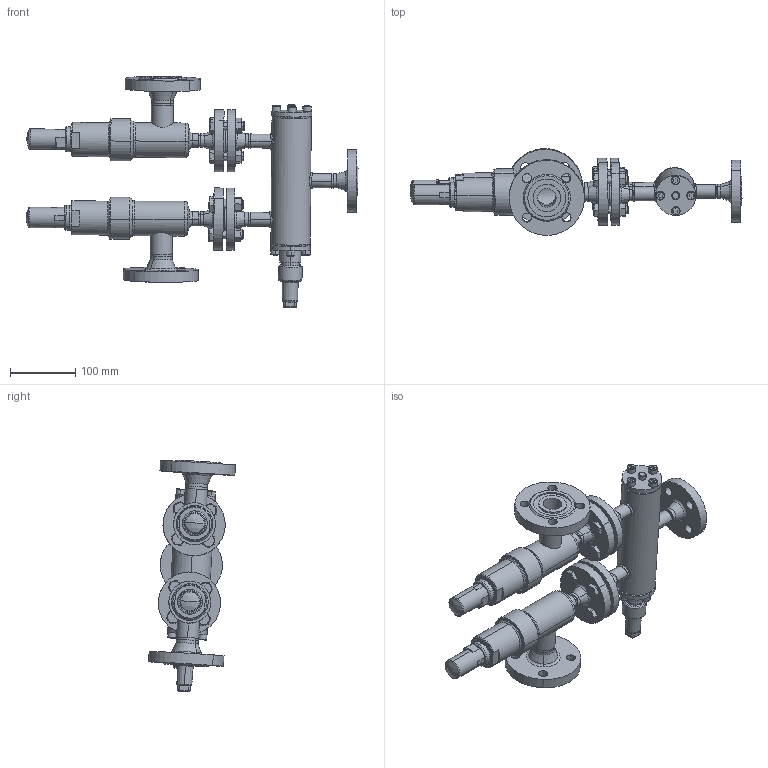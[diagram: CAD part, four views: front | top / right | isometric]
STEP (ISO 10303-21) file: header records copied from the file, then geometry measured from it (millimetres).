
FILE_DESCRIPTION (( 'STEP AP214' ), '1' );
FILE_NAME ('WVR-SVAB_1A8FL_DN15_DIN-FL.STEP', '2010-09-08T13:27:44', ( 'Eckhard Grams' ), ( 'AWP Kälte Klima Armaturen GmbH' ), 'SwSTEP 2.0', 'SolidWorks 2002296', '' );
FILE_SCHEMA (( 'AUTOMOTIVE_DESIGN' ));
Length unit declared in the file: millimetre
Products named in the file (31): Gehkpl 45720E10-5030001; Flansch-DIN2635-Nut_PS40_DIN-Flansch-DN015_PS40-Nut; Geh 45700E10-5034004_DN15; Rohrstutzen-A 45700E10-5036004_DN15(25)_Standard; Flansch-DIN2635-Nut_PS40_DIN-Flansch-DN025_PS40-Nut; bead Geh,kpl 45720E10-2_Standard; bead Geh,kpl 45720E10-1_Standard; Flachdichtg-Alu-DN15; Haube 45700E10-5260003_DN15; Kappe SVA-SVU-ORV_DN10-40 (M27x1,5)_Standard; Sechskantschraube-DIN933_M12x 45; Sechskantmutter-DIN934_M12; WVR-SVAB_1A8FL_DN15_DIN-FL; WVR24020D10-DN015_DIN-FL-N-F_PS40_Standard; WVB-R23000K10_Deck+Schr-DN10-20_Standard; Deckel24000E10-DN10-20_Standard; Zylinderschraube-DIN912_M 8x  25; Geh,kpl24020E10-DN15_DIN-FL-N-F_PS40_Standard; Geh,kpl24000E10_DN15_R1_PS40_Standard; Gehäuse24000E10-DN15_R1_PS40_Standard; Rohrstutzen-24000E10-DN15_R1_Standard; Schw-24000E10-DN15_Standard; Flansch-DIN2635-Feder_PS40_DIN-Flansch-DN015_PS40-Feder; bead24020-10-1_Standard; bead24020-10-3_Standard; bead24020-10-2_Standard; Kappe 96300E10_DN6-20 (M27x2)_Standard; AVR26300K10_Deck+Schr-DN10-20_Standard; Deckel26300K10-DN10-20_Standard; Zylinderschraube-DIN912_M 8x  16; SVAB 45520D10-DN15(25)_DIN
Assembly tree (57 placements, depth 5):
  WVR-SVAB_1A8FL_DN15_DIN-FL
    SVAB 45520D10-DN15(25)_DIN  x2
      Haube 45700E10-5260003_DN15
      Flachdichtg-Alu-DN15
      Kappe SVA-SVU-ORV_DN10-40 (M27x1,5)_Standard
      Gehkpl 45720E10-5030001
        Flansch-DIN2635-Nut_PS40_DIN-Flansch-DN025_PS40-Nut
        bead Geh,kpl 45720E10-2_Standard
        Geh 45700E10-5034004_DN15
        Rohrstutzen-A 45700E10-5036004_DN15(25)_Standard
        bead Geh,kpl 45720E10-1_Standard
        Flansch-DIN2635-Nut_PS40_DIN-Flansch-DN015_PS40-Nut
    Sechskantmutter-DIN934_M12  x8
    Sechskantschraube-DIN933_M12x 45  x8
    WVR24020D10-DN015_DIN-FL-N-F_PS40_Standard
      Kappe 96300E10_DN6-20 (M27x2)_Standard
      AVR26300K10_Deck+Schr-DN10-20_Standard
        Zylinderschraube-DIN912_M 8x  16  x4
        Deckel26300K10-DN10-20_Standard
      Geh,kpl24020E10-DN15_DIN-FL-N-F_PS40_Standard
        Flansch-DIN2635-Nut_PS40_DIN-Flansch-DN015_PS40-Nut
        Flansch-DIN2635-Feder_PS40_DIN-Flansch-DN015_PS40-Feder  x2
        bead24020-10-1_Standard
        Geh,kpl24000E10_DN15_R1_PS40_Standard
          Gehäuse24000E10-DN15_R1_PS40_Standard
          Schw-24000E10-DN15_Standard  x3
          Rohrstutzen-24000E10-DN15_R1_Standard  x3
        bead24020-10-3_Standard
        bead24020-10-2_Standard
      WVB-R23000K10_Deck+Schr-DN10-20_Standard
        Zylinderschraube-DIN912_M 8x  25  x4
        Deckel24000E10-DN10-20_Standard
Bounding box: 507.23 x 132.84 x 354.15 mm (x, y, z)
Volume: 1853133.5 mm3; surface area: 525526.2 mm2
Topology: 58 solids, 58 shells, 1366 faces, 3163 edges, 1975 vertices
Faces by surface type: cylinder 506, plane 378, cone 321, torus 99, bspline 54, sphere 8
Entity records: 42059 total; most frequent: CARTESIAN_POINT 25434, DIRECTION 3057, ORIENTED_EDGE 2862, EDGE_CURVE 1431, AXIS2_PLACEMENT_3D 1294, VERTEX_POINT 894, EDGE_LOOP 725, CIRCLE 652
